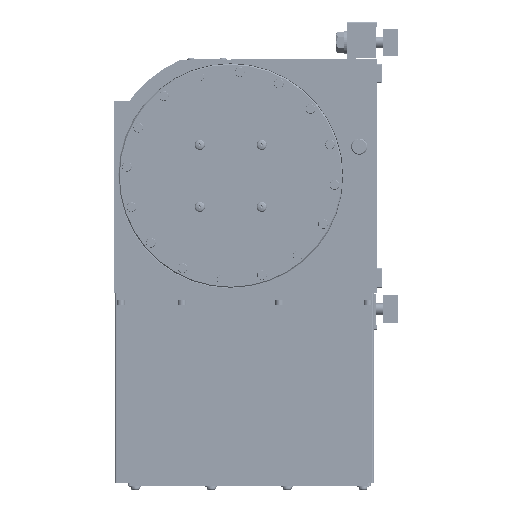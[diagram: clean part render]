
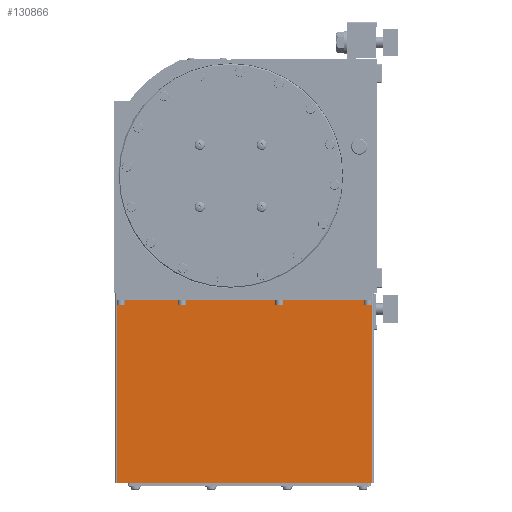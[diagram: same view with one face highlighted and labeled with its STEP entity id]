
A CAD part, left-side view. The second image highlights one B-rep face of the part: STEP entity #130866.
In plain terms, the highlighted planar face has unit normal (-1, 0, 0).
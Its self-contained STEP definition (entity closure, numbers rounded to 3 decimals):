
#363 = LINE ( 'NONE', #62726, #136047 ) ;
#517 = ORIENTED_EDGE ( 'NONE', *, *, #113882, .F. ) ;
#24097 = VECTOR ( 'NONE', #149896, 1000. ) ;
#31067 = VERTEX_POINT ( 'NONE', #45651 ) ;
#34378 = FACE_OUTER_BOUND ( 'NONE', #61694, .T. ) ;
#45651 = CARTESIAN_POINT ( 'NONE',  ( -117.5, 264., -196. ) ) ;
#46174 = ORIENTED_EDGE ( 'NONE', *, *, #136043, .T. ) ;
#46871 = VERTEX_POINT ( 'NONE', #54893 ) ;
#54893 = CARTESIAN_POINT ( 'NONE',  ( -117.5, 264., -8. ) ) ;
#61271 = AXIS2_PLACEMENT_3D ( 'NONE', #146740, #67995, #159986 ) ;
#61694 = EDGE_LOOP ( 'NONE', ( #517, #168080, #75144, #46174 ) ) ;
#62726 = CARTESIAN_POINT ( 'NONE',  ( -117.5, 0., -196. ) ) ;
#63181 = LINE ( 'NONE', #136642, #24097 ) ;
#65549 = LINE ( 'NONE', #71227, #96349 ) ;
#67995 = DIRECTION ( 'NONE',  ( 1., 0., 0. ) ) ;
#70793 = CARTESIAN_POINT ( 'NONE',  ( -117.5, 2., -196. ) ) ;
#71227 = CARTESIAN_POINT ( 'NONE',  ( -117.5, 2., -196. ) ) ;
#75144 = ORIENTED_EDGE ( 'NONE', *, *, #110497, .T. ) ;
#75972 = DIRECTION ( 'NONE',  ( 0., 1., 0. ) ) ;
#78692 = VECTOR ( 'NONE', #142577, 1000. ) ;
#93877 = PLANE ( 'NONE',  #61271 ) ;
#96349 = VECTOR ( 'NONE', #163209, 1000. ) ;
#110497 = EDGE_CURVE ( 'NONE', #162871, #46871, #63181, .T. ) ;
#113565 = CARTESIAN_POINT ( 'NONE',  ( -117.5, 2., -8. ) ) ;
#113567 = LINE ( 'NONE', #116758, #78692 ) ;
#113882 = EDGE_CURVE ( 'NONE', #131048, #31067, #363, .T. ) ;
#116758 = CARTESIAN_POINT ( 'NONE',  ( -117.5, 264., -196. ) ) ;
#124946 = EDGE_CURVE ( 'NONE', #131048, #162871, #65549, .T. ) ;
#130866 = ADVANCED_FACE ( 'NONE', ( #34378 ), #93877, .F. ) ;
#131048 = VERTEX_POINT ( 'NONE', #70793 ) ;
#136043 = EDGE_CURVE ( 'NONE', #46871, #31067, #113567, .T. ) ;
#136047 = VECTOR ( 'NONE', #75972, 1000. ) ;
#136642 = CARTESIAN_POINT ( 'NONE',  ( -117.5, 0., -8. ) ) ;
#142577 = DIRECTION ( 'NONE',  ( 0., 0., -1. ) ) ;
#146740 = CARTESIAN_POINT ( 'NONE',  ( -117.5, 0., -196. ) ) ;
#149896 = DIRECTION ( 'NONE',  ( 0., 1., 0. ) ) ;
#159986 = DIRECTION ( 'NONE',  ( 0., 0., -1. ) ) ;
#162871 = VERTEX_POINT ( 'NONE', #113565 ) ;
#163209 = DIRECTION ( 'NONE',  ( 0., 0., 1. ) ) ;
#168080 = ORIENTED_EDGE ( 'NONE', *, *, #124946, .T. ) ;
